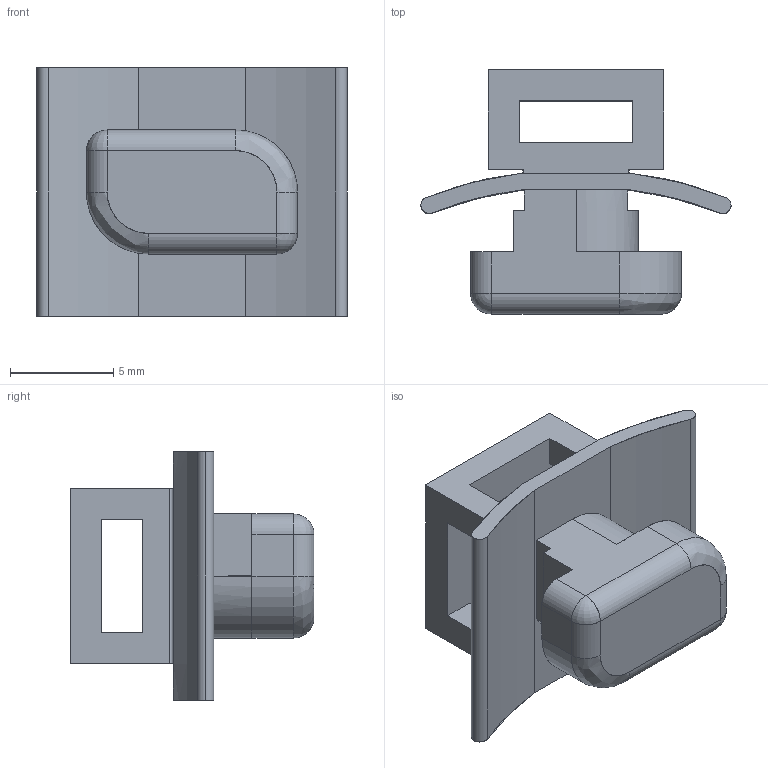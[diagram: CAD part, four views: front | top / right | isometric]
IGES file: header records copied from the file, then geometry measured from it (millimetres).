
Start section: SolidWorks IGES file using analytic representation for surfaces
Global section: file name: C:\Users\admin\Desktop\IGES\J3CC.igs; native system: SolidWorks 2014; preprocessor: SolidWorks 2014; author: admin_pc; date: 170524.165420; units: millimetre
Bounding box: 15 x 11.8 x 12 mm (x, y, z)
Surface area: 985.7 mm2 (no closed solid volume)
Topology: 0 solids, 0 shells, 60 faces, 458 edges, 456 vertices
Faces by surface type: bspline 38, revolution 22
